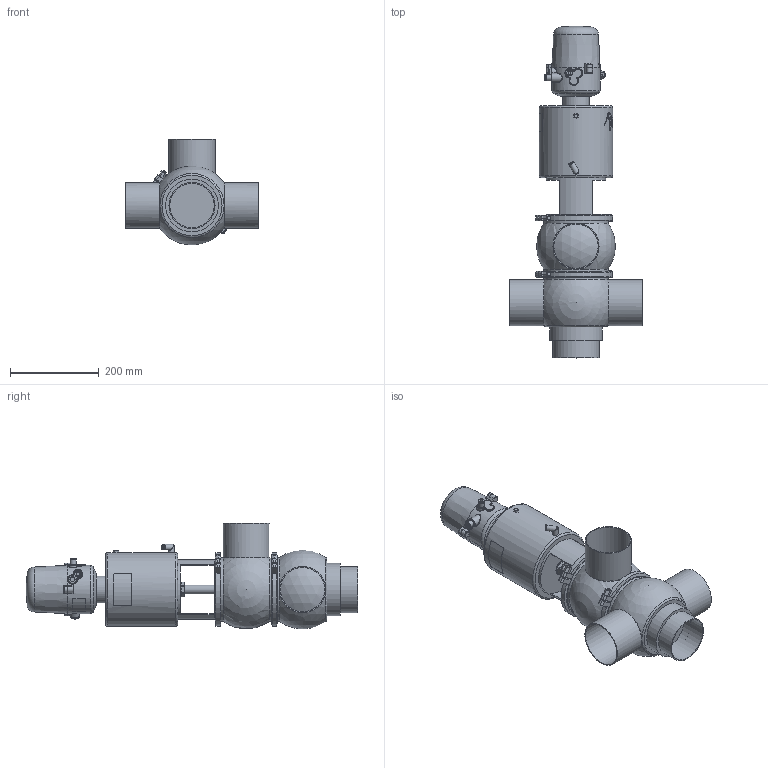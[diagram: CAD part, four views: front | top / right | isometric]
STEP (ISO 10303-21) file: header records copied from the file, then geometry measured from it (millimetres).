
FILE_DESCRIPTION (( 'STEP AP214' ), '1' );
FILE_NAME ('INNOVA K F W DIN 100 T4 AS NC & C-TOP S_10.240.16.0079.STEP', '2024-08-06T09:11:21', ( '' ), ( '' ), 'SwSTEP 2.0', 'SolidWorks 2023', '' );
FILE_SCHEMA (( 'AUTOMOTIVE_DESIGN' ));
Length unit declared in the file: millimetre
Products named in the file (8): 10.240.15.0001_DN 100; 10.426.15.0001_C-TOP S - 1 EV; 10.240.15.0014_T4 AS P0; 10.240.15.0006_DIN 100; 10.240.15.0003_DIN 100; 10.240.15.0017_Estàndard; 10.240.15.0010_DN 100; INNOVA K F W DIN 100 T4 AS NC & C-TOP S_10.240.16.0079
Assembly tree (8 placements, depth 2):
  INNOVA K F W DIN 100 T4 AS NC & C-TOP S_10.240.16.0079
    10.240.15.0006_DIN 100
    10.240.15.0003_DIN 100
    10.240.15.0010_DN 100
    10.240.15.0014_T4 AS P0
    10.240.15.0017_Estàndard
    10.426.15.0001_C-TOP S - 1 EV
    10.240.15.0001_DN 100  x2
Bounding box: 300 x 749 x 239 mm (x, y, z)
Volume: 10927227.4 mm3; surface area: 776416.6 mm2
Topology: 8 solids, 8 shells, 1177 faces, 2856 edges, 1901 vertices
Faces by surface type: plane 411, cylinder 358, cone 201, bspline 160, torus 37, sphere 10
Full cylindrical faces by diameter (mm): 0.371 x17, 0.512 x16, 0.658 x16, 0.795 x16, 0.94 x15, 1.098 x15, 1.241 x13, 1.382 x13, 1.523 x11, 1.669 x10, 2.201 x1, 4 x2, 5.5 x2, 6 x2, 6.15 x1, 8 x6, 8.5 x1, 10 x1, 10.5 x1, 11 x2, 12.5 x3, 13 x2, 13.5 x2, 16 x1, 17 x3, 20 x3, 20.5 x1, 22 x2, 31 x1, 34.5 x3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
Entity records: 58216 total; most frequent: CARTESIAN_POINT 27892, ORIENTED_EDGE 4538, DIRECTION 3675, EDGE_CURVE 2269, VERTEX_POINT 1614, EDGE_LOOP 1575, AXIS2_PLACEMENT_3D 1509, FACE_OUTER_BOUND 1336
